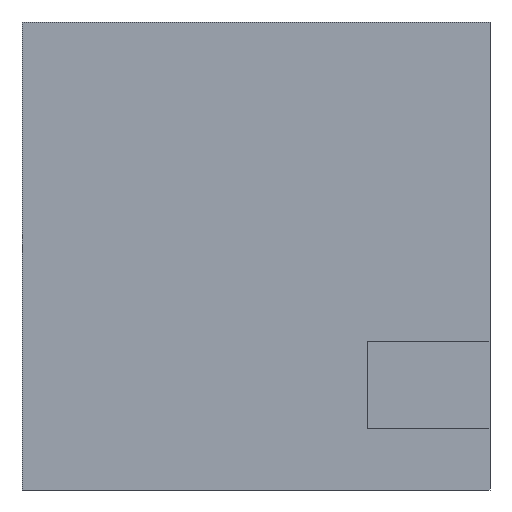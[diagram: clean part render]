
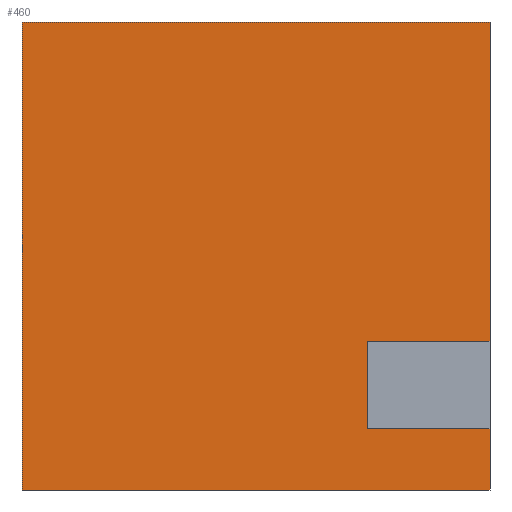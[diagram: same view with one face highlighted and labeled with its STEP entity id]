
A CAD part, left-side view. The second image highlights one B-rep face of the part: STEP entity #460.
In plain terms, the highlighted planar face has unit normal (-1, 0, 0).
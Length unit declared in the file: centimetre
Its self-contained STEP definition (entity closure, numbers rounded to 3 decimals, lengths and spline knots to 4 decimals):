
#12 = EDGE_CURVE ( 'NONE', #92, #395, #103, .T. ) ;
#20 = DIRECTION ( 'NONE',  ( 0., -1., 0. ) ) ;
#26 = VERTEX_POINT ( 'NONE', #226 ) ;
#31 = ORIENTED_EDGE ( 'NONE', *, *, #471, .F. ) ;
#43 = CARTESIAN_POINT ( 'NONE',  ( 0., 0., 130.6397 ) ) ;
#50 = DIRECTION ( 'NONE',  ( 0., 0., -1. ) ) ;
#51 = DIRECTION ( 'NONE',  ( 0., 0., -1. ) ) ;
#62 = CARTESIAN_POINT ( 'NONE',  ( 0., 1000., 1000. ) ) ;
#64 = EDGE_CURVE ( 'NONE', #403, #92, #412, .T. ) ;
#65 = CARTESIAN_POINT ( 'NONE',  ( 0., 1000., 1000. ) ) ;
#92 = VERTEX_POINT ( 'NONE', #218 ) ;
#103 = LINE ( 'NONE', #43, #233 ) ;
#117 = CARTESIAN_POINT ( 'NONE',  ( 0., 0., 1000. ) ) ;
#138 = ORIENTED_EDGE ( 'NONE', *, *, #64, .F. ) ;
#139 = ORIENTED_EDGE ( 'NONE', *, *, #673, .F. ) ;
#174 = LINE ( 'NONE', #117, #483 ) ;
#188 = CARTESIAN_POINT ( 'NONE',  ( 0., 0., 317.8608 ) ) ;
#189 = CARTESIAN_POINT ( 'NONE',  ( 0., 1000., 1000. ) ) ;
#218 = CARTESIAN_POINT ( 'NONE',  ( 0., 262.0057, 130.6397 ) ) ;
#226 = CARTESIAN_POINT ( 'NONE',  ( 0., 0., 1000. ) ) ;
#231 = LINE ( 'NONE', #62, #598 ) ;
#233 = VECTOR ( 'NONE', #790, 100. ) ;
#248 = VECTOR ( 'NONE', #464, 100. ) ;
#281 = EDGE_CURVE ( 'NONE', #395, #616, #653, .T. ) ;
#285 = VERTEX_POINT ( 'NONE', #340 ) ;
#287 = CARTESIAN_POINT ( 'NONE',  ( 0., 0., 130.6397 ) ) ;
#304 = FACE_OUTER_BOUND ( 'NONE', #645, .T. ) ;
#309 = DIRECTION ( 'NONE',  ( 0., -1., 0. ) ) ;
#316 = CARTESIAN_POINT ( 'NONE',  ( 0., 1000., 0. ) ) ;
#321 = LINE ( 'NONE', #188, #544 ) ;
#329 = ORIENTED_EDGE ( 'NONE', *, *, #281, .F. ) ;
#340 = CARTESIAN_POINT ( 'NONE',  ( 0., 0., 317.8608 ) ) ;
#395 = VERTEX_POINT ( 'NONE', #287 ) ;
#403 = VERTEX_POINT ( 'NONE', #474 ) ;
#412 = LINE ( 'NONE', #529, #441 ) ;
#431 = ORIENTED_EDGE ( 'NONE', *, *, #438, .F. ) ;
#438 = EDGE_CURVE ( 'NONE', #26, #285, #174, .T. ) ;
#440 = LINE ( 'NONE', #635, #786 ) ;
#441 = VECTOR ( 'NONE', #50, 100. ) ;
#443 = LINE ( 'NONE', #189, #666 ) ;
#460 = ADVANCED_FACE ( 'NONE', ( #304 ), #609, .F. ) ;
#462 = VERTEX_POINT ( 'NONE', #746 ) ;
#464 = DIRECTION ( 'NONE',  ( 0., 0., -1. ) ) ;
#471 = EDGE_CURVE ( 'NONE', #462, #26, #231, .T. ) ;
#474 = CARTESIAN_POINT ( 'NONE',  ( 0., 262.0057, 317.8608 ) ) ;
#483 = VECTOR ( 'NONE', #51, 100. ) ;
#504 = ORIENTED_EDGE ( 'NONE', *, *, #557, .T. ) ;
#529 = CARTESIAN_POINT ( 'NONE',  ( 0., 262.0057, 130.6397 ) ) ;
#544 = VECTOR ( 'NONE', #564, 100. ) ;
#557 = EDGE_CURVE ( 'NONE', #462, #646, #443, .T. ) ;
#562 = DIRECTION ( 'NONE',  ( 0., 0., -1. ) ) ;
#564 = DIRECTION ( 'NONE',  ( 0., 1., 0. ) ) ;
#567 = ORIENTED_EDGE ( 'NONE', *, *, #12, .F. ) ;
#580 = EDGE_CURVE ( 'NONE', #646, #616, #440, .T. ) ;
#598 = VECTOR ( 'NONE', #309, 100. ) ;
#609 = PLANE ( 'NONE',  #611 ) ;
#611 = AXIS2_PLACEMENT_3D ( 'NONE', #65, #741, #674 ) ;
#616 = VERTEX_POINT ( 'NONE', #631 ) ;
#631 = CARTESIAN_POINT ( 'NONE',  ( 0., 0., 0. ) ) ;
#635 = CARTESIAN_POINT ( 'NONE',  ( 0., 1000., 0. ) ) ;
#645 = EDGE_LOOP ( 'NONE', ( #329, #567, #138, #139, #431, #31, #504, #771 ) ) ;
#646 = VERTEX_POINT ( 'NONE', #316 ) ;
#653 = LINE ( 'NONE', #772, #248 ) ;
#666 = VECTOR ( 'NONE', #562, 100. ) ;
#673 = EDGE_CURVE ( 'NONE', #285, #403, #321, .T. ) ;
#674 = DIRECTION ( 'NONE',  ( 0., 0., -1. ) ) ;
#741 = DIRECTION ( 'NONE',  ( 1., 0., 0. ) ) ;
#746 = CARTESIAN_POINT ( 'NONE',  ( 0., 1000., 1000. ) ) ;
#771 = ORIENTED_EDGE ( 'NONE', *, *, #580, .T. ) ;
#772 = CARTESIAN_POINT ( 'NONE',  ( 0., 0., 1000. ) ) ;
#786 = VECTOR ( 'NONE', #20, 100. ) ;
#790 = DIRECTION ( 'NONE',  ( 0., -1., 0. ) ) ;
